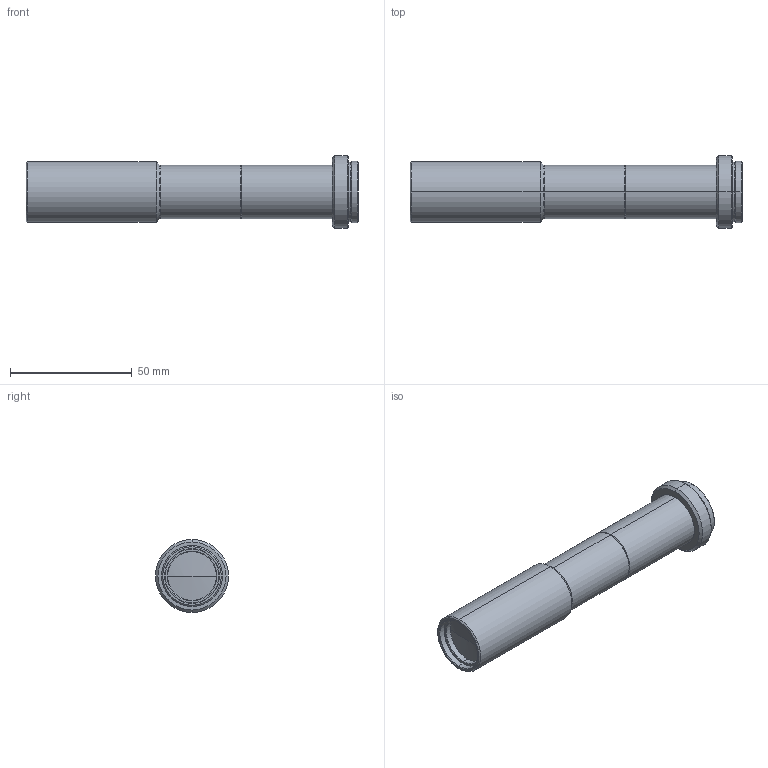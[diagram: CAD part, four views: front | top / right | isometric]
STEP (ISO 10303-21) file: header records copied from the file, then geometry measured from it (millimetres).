
FILE_DESCRIPTION (( 'STEP AP203' ), '1' );
FILE_NAME ('TC1-150.STEP', '2020-02-13T01:16:06', ( '' ), ( '' ), 'SwSTEP 2.0', 'SolidWorks 2017', '' );
FILE_SCHEMA (( 'CONFIG_CONTROL_DESIGN' ));
Length unit declared in the file: millimetre
Products named in the file (1): TC1-150
Bounding box: 136.5 x 30 x 30 mm (x, y, z)
Volume: 47862 mm3; surface area: 14396.2 mm2
Topology: 1 solids, 1 shells, 66 faces, 132 edges, 75 vertices
Faces by surface type: cone 34, cylinder 22, plane 8, sphere 2
Entity records: 1777 total; most frequent: DIRECTION 342, CARTESIAN_POINT 274, ORIENTED_EDGE 264, AXIS2_PLACEMENT_3D 143, EDGE_CURVE 132, CIRCLE 76, VERTEX_POINT 75, EDGE_LOOP 73
